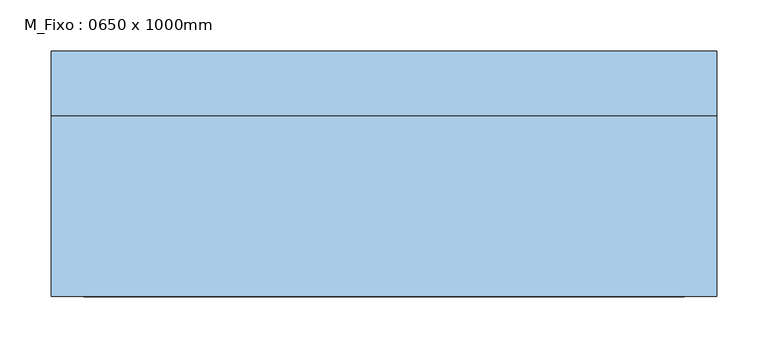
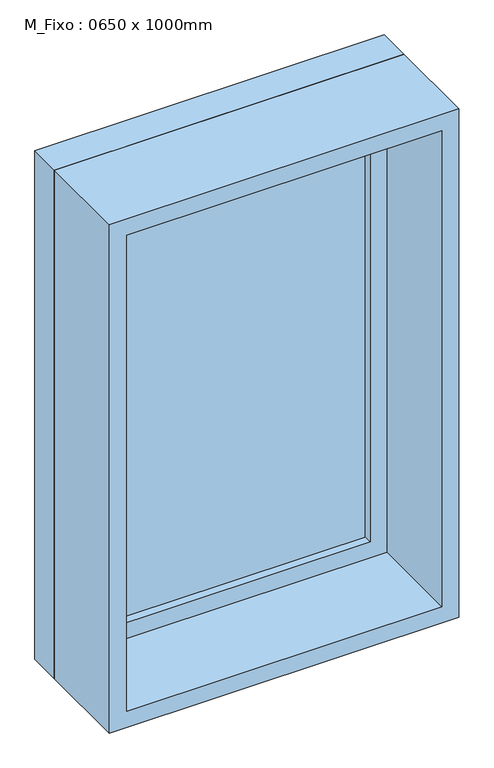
"""IFC4 building model written with IfcOpenShell, lengths in millimetres: window geometry, M_Fixo : 0650 x 1000mm."""

from ifc_helpers import new_model, si_unit, frame, origin, place, context, project, spatial, polyline, outline, extrude, source, transform, mapped, element, save


def m_fixo_0650_x_1000mm_b2093eee(model_context):
    return source(origin(), model_context, "Body", "SweptSolid", [
        extrude(outline(polyline([(-262.0, 98.0), (262.0, 98.0), (262.0, 86.0), (-262.0, 86.0), (-262.0, 98.0)])), frame((0.0, 0.0, 1463.0), z_axis=(0.0, 0.0, 1.0), x_axis=(1.0, 0.0, 0.0)), (0.0, 0.0, 1.0), 874.0),
        extrude(outline(polyline([(2381.0, -306.0), (1419.0, -306.0), (1419.0, 306.0), (2381.0, 306.0), (2381.0, -306.0)]), holes=[polyline([(2337.0, -262.0), (2337.0, 262.0), (1463.0, 262.0), (1463.0, -262.0), (2337.0, -262.0)])]), frame((0.0, 70.0, 0.0), z_axis=(0.0, 1.0, 0.0), x_axis=(0.0, 0.0, 1.0)), (0.0, 0.0, 1.0), 44.0),
        extrude(outline(polyline([(2400.0, -325.0), (1400.0, -325.0), (1400.0, 325.0), (2400.0, 325.0), (2400.0, -325.0)]), holes=[polyline([(2381.0, -306.0), (2381.0, 306.0), (1419.0, 306.0), (1419.0, -306.0), (2381.0, -306.0)])]), frame((0.0, 70.0, 0.0), z_axis=(0.0, 1.0, 0.0), x_axis=(0.0, 0.0, 1.0)), (0.0, 0.0, 1.0), 63.0),
        extrude(outline(polyline([(2400.0, -325.0), (1400.0, -325.0), (1400.0, 325.0), (2400.0, 325.0), (2400.0, -325.0)]), holes=[polyline([(2368.0, -293.0), (2368.0, 293.0), (1432.0, 293.0), (1432.0, -293.0), (2368.0, -293.0)])]), frame((0.0, -107.0, 0.0), z_axis=(0.0, 1.0, 0.0), x_axis=(0.0, 0.0, 1.0)), (0.0, 0.0, 1.0), 177.0),
    ])


if __name__ == "__main__":
    model = new_model("IFC4")
    model_context = context("Model", 3, world=origin())
    ifc_project = project(units=[si_unit("LENGTHUNIT", "METRE", prefix="MILLI")], contexts=[model_context])
    site = spatial("IfcSite", under=ifc_project)
    building = spatial("IfcBuilding", under=site)
    placement = place(None, origin())
    m_fixo_0650_x_1000mm_shape = m_fixo_0650_x_1000mm_b2093eee(model_context)
    element("IfcWindow", 1, ObjectType="M_Fixo : 0650 x 1000mm", at=placement, inside=building, context=model_context, shape_type="MappedRepresentation", body=[
        mapped(m_fixo_0650_x_1000mm_shape, transform((0.0, 0.0, 0.0), x_axis=(1.0, 0.0, 0.0), y_axis=(0.0, 1.0, 0.0), z_axis=(0.0, 0.0, 1.0))),
    ])
    save(model, "model.ifc")
